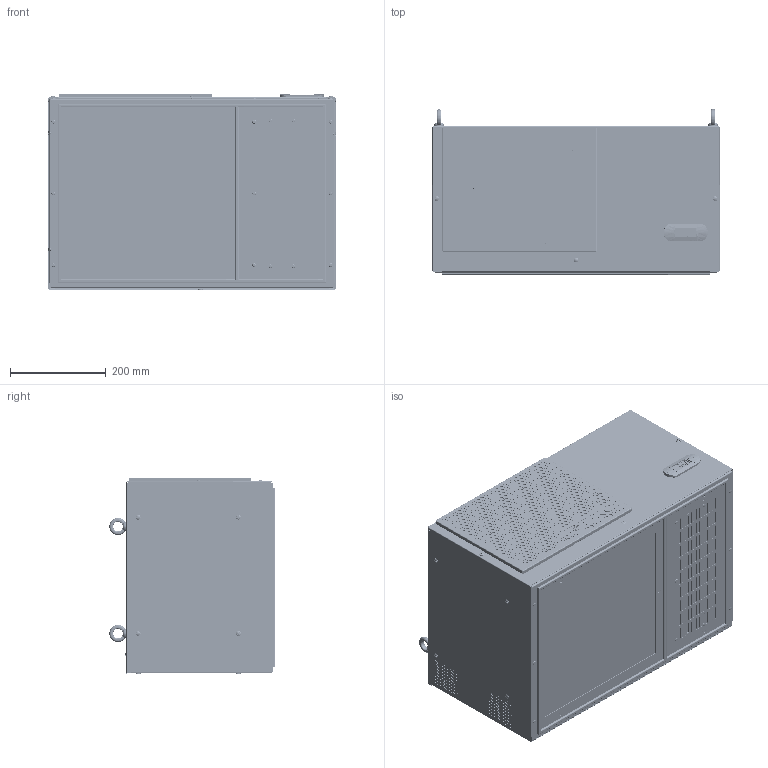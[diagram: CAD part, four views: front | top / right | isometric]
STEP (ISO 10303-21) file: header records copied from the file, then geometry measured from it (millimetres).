
FILE_DESCRIPTION (( 'STEP AP203' ), '1' );
FILE_NAME ('ROOF-800W-1000W(NA).STEP', '2019-06-05T10:43:38', ( 'Ufficio Tecnico' ), ( 'Hewlett-Packard Company' ), 'SwSTEP 2.0', 'SolidWorks 2017', '' );
FILE_SCHEMA (( 'CONFIG_CONTROL_DESIGN' ));
Products named in the file (2): ROOF-800W-1000W(NA)
Bounding box: 602.71 x 346.5 x 412.11 mm (x, y, z)
Surface area: 4227599.4 mm2 (no closed solid volume)
Topology: 0 solids, 139 shells, 11702 faces, 32234 edges, 21142 vertices
Faces by surface type: cylinder 6606, plane 4075, bspline 437, cone 353, torus 223, sphere 8
Entity records: 416207 total; most frequent: CARTESIAN_POINT 100562, DIRECTION 65948, ORIENTED_EDGE 64380, EDGE_CURVE 32212, AXIS2_PLACEMENT_3D 24852, VERTEX_POINT 21143, EDGE_LOOP 17782, VECTOR 16244
